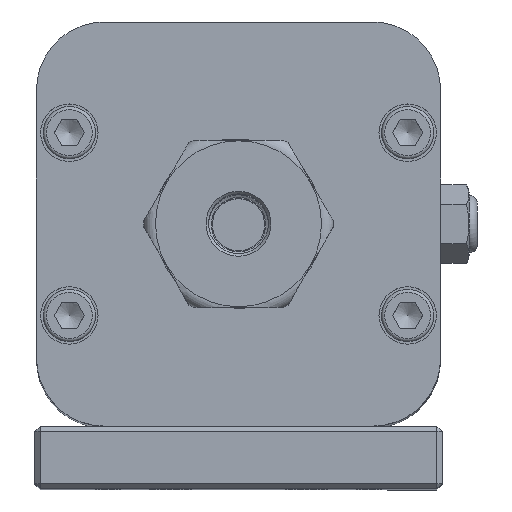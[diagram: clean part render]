
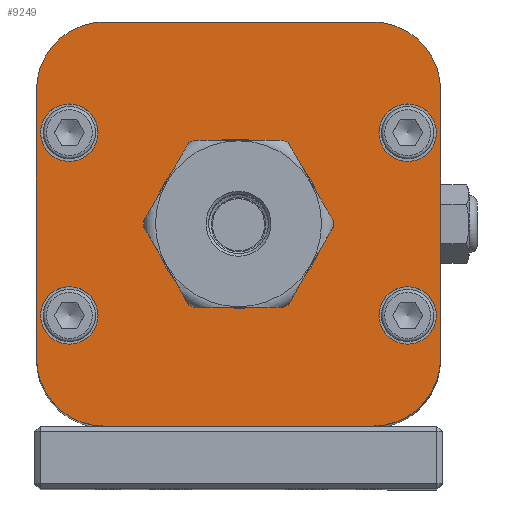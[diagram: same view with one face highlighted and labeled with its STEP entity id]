
A CAD part, top view. The second image highlights one B-rep face of the part: STEP entity #9249.
In plain terms, the highlighted planar face has unit normal (0, 0, 1) as drawn and (0, 0, -1) by its records, which use the part's own axes.
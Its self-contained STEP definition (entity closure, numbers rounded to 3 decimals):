
#646=LINE('',#15520,#1439);
#647=LINE('',#15524,#1440);
#648=LINE('',#15528,#1441);
#649=LINE('',#15532,#1442);
#1439=VECTOR('',#12320,10.);
#1440=VECTOR('',#12323,10.);
#1441=VECTOR('',#12326,10.);
#1442=VECTOR('',#12329,10.);
#2085=FACE_BOUND('',#2988,.T.);
#2086=FACE_BOUND('',#2989,.T.);
#2087=FACE_BOUND('',#2990,.T.);
#2088=FACE_BOUND('',#2991,.T.);
#2089=FACE_BOUND('',#2992,.T.);
#2411=FACE_OUTER_BOUND('',#2987,.T.);
#2987=EDGE_LOOP('',(#7428,#7429,#7430,#7431,#7432,#7433,#7434,#7435));
#2988=EDGE_LOOP('',(#7436));
#2989=EDGE_LOOP('',(#7437));
#2990=EDGE_LOOP('',(#7438));
#2991=EDGE_LOOP('',(#7439));
#2992=EDGE_LOOP('',(#7440));
#3555=CIRCLE('',#10301,15.289);
#3559=CIRCLE('',#10307,13.);
#3560=CIRCLE('',#10308,13.);
#3561=CIRCLE('',#10309,13.);
#3562=CIRCLE('',#10310,13.);
#3563=CIRCLE('',#10311,5.5);
#3564=CIRCLE('',#10312,5.5);
#3565=CIRCLE('',#10313,5.5);
#3566=CIRCLE('',#10314,5.5);
#4266=VERTEX_POINT('',#15506);
#4270=VERTEX_POINT('',#15518);
#4271=VERTEX_POINT('',#15519);
#4272=VERTEX_POINT('',#15521);
#4273=VERTEX_POINT('',#15523);
#4274=VERTEX_POINT('',#15525);
#4275=VERTEX_POINT('',#15527);
#4276=VERTEX_POINT('',#15529);
#4277=VERTEX_POINT('',#15531);
#4278=VERTEX_POINT('',#15534);
#4279=VERTEX_POINT('',#15536);
#4280=VERTEX_POINT('',#15538);
#4281=VERTEX_POINT('',#15540);
#5389=EDGE_CURVE('',#4266,#4266,#3555,.T.);
#5395=EDGE_CURVE('',#4270,#4271,#646,.T.);
#5396=EDGE_CURVE('',#4272,#4270,#3559,.T.);
#5397=EDGE_CURVE('',#4273,#4272,#647,.T.);
#5398=EDGE_CURVE('',#4274,#4273,#3560,.T.);
#5399=EDGE_CURVE('',#4275,#4274,#648,.T.);
#5400=EDGE_CURVE('',#4276,#4275,#3561,.T.);
#5401=EDGE_CURVE('',#4277,#4276,#649,.T.);
#5402=EDGE_CURVE('',#4271,#4277,#3562,.T.);
#5403=EDGE_CURVE('',#4278,#4278,#3563,.T.);
#5404=EDGE_CURVE('',#4279,#4279,#3564,.T.);
#5405=EDGE_CURVE('',#4280,#4280,#3565,.T.);
#5406=EDGE_CURVE('',#4281,#4281,#3566,.T.);
#7428=ORIENTED_EDGE('',*,*,#5395,.F.);
#7429=ORIENTED_EDGE('',*,*,#5396,.F.);
#7430=ORIENTED_EDGE('',*,*,#5397,.F.);
#7431=ORIENTED_EDGE('',*,*,#5398,.F.);
#7432=ORIENTED_EDGE('',*,*,#5399,.F.);
#7433=ORIENTED_EDGE('',*,*,#5400,.F.);
#7434=ORIENTED_EDGE('',*,*,#5401,.F.);
#7435=ORIENTED_EDGE('',*,*,#5402,.F.);
#7436=ORIENTED_EDGE('',*,*,#5403,.T.);
#7437=ORIENTED_EDGE('',*,*,#5404,.T.);
#7438=ORIENTED_EDGE('',*,*,#5405,.T.);
#7439=ORIENTED_EDGE('',*,*,#5406,.T.);
#7440=ORIENTED_EDGE('',*,*,#5389,.F.);
#8857=PLANE('',#10306);
#9249=ADVANCED_FACE('',(#2411,#2085,#2086,#2087,#2088,#2089),#8857,.F.);
#10301=AXIS2_PLACEMENT_3D('',#15507,#12306,#12307);
#10306=AXIS2_PLACEMENT_3D('',#15517,#12318,#12319);
#10307=AXIS2_PLACEMENT_3D('',#15522,#12321,#12322);
#10308=AXIS2_PLACEMENT_3D('',#15526,#12324,#12325);
#10309=AXIS2_PLACEMENT_3D('',#15530,#12327,#12328);
#10310=AXIS2_PLACEMENT_3D('',#15533,#12330,#12331);
#10311=AXIS2_PLACEMENT_3D('',#15535,#12332,#12333);
#10312=AXIS2_PLACEMENT_3D('',#15537,#12334,#12335);
#10313=AXIS2_PLACEMENT_3D('',#15539,#12336,#12337);
#10314=AXIS2_PLACEMENT_3D('',#15541,#12338,#12339);
#12306=DIRECTION('center_axis',(0.,0.,-1.));
#12307=DIRECTION('ref_axis',(0.,-1.,0.));
#12318=DIRECTION('center_axis',(0.,0.,1.));
#12319=DIRECTION('ref_axis',(1.,0.,0.));
#12320=DIRECTION('',(1.,0.,0.));
#12321=DIRECTION('center_axis',(0.,0.,1.));
#12322=DIRECTION('ref_axis',(-1.,0.,0.));
#12323=DIRECTION('',(0.,-1.,0.));
#12324=DIRECTION('center_axis',(0.,0.,1.));
#12325=DIRECTION('ref_axis',(0.,1.,0.));
#12326=DIRECTION('',(-1.,0.,0.));
#12327=DIRECTION('center_axis',(0.,0.,1.));
#12328=DIRECTION('ref_axis',(1.,0.,0.));
#12329=DIRECTION('',(0.,1.,0.));
#12330=DIRECTION('center_axis',(0.,0.,1.));
#12331=DIRECTION('ref_axis',(0.,-1.,0.));
#12332=DIRECTION('center_axis',(0.,0.,1.));
#12333=DIRECTION('ref_axis',(-1.,0.,0.));
#12334=DIRECTION('center_axis',(0.,0.,1.));
#12335=DIRECTION('ref_axis',(-1.,0.,0.));
#12336=DIRECTION('center_axis',(0.,0.,1.));
#12337=DIRECTION('ref_axis',(-1.,0.,0.));
#12338=DIRECTION('center_axis',(0.,0.,1.));
#12339=DIRECTION('ref_axis',(-1.,0.,0.));
#15506=CARTESIAN_POINT('',(0.,15.289,0.));
#15507=CARTESIAN_POINT('Origin',(0.,0.,0.));
#15517=CARTESIAN_POINT('Origin',(0.,0.,
0.));
#15518=CARTESIAN_POINT('',(-25.7,-38.7,0.));
#15519=CARTESIAN_POINT('',(25.7,-38.7,0.));
#15520=CARTESIAN_POINT('',(-25.7,-38.7,0.));
#15521=CARTESIAN_POINT('',(-38.7,-25.7,0.));
#15522=CARTESIAN_POINT('Origin',(-25.7,-25.7,0.));
#15523=CARTESIAN_POINT('',(-38.7,25.7,0.));
#15524=CARTESIAN_POINT('',(-38.7,25.7,0.));
#15525=CARTESIAN_POINT('',(-25.7,38.7,0.));
#15526=CARTESIAN_POINT('Origin',(-25.7,25.7,0.));
#15527=CARTESIAN_POINT('',(25.7,38.7,0.));
#15528=CARTESIAN_POINT('',(25.7,38.7,0.));
#15529=CARTESIAN_POINT('',(38.7,25.7,0.));
#15530=CARTESIAN_POINT('Origin',(25.7,25.7,0.));
#15531=CARTESIAN_POINT('',(38.7,-25.7,0.));
#15532=CARTESIAN_POINT('',(38.7,-25.7,0.));
#15533=CARTESIAN_POINT('Origin',(25.7,-25.7,0.));
#15534=CARTESIAN_POINT('',(-12.,32.4,0.));
#15535=CARTESIAN_POINT('Origin',(-17.5,32.4,0.));
#15536=CARTESIAN_POINT('',(-12.,-32.4,0.));
#15537=CARTESIAN_POINT('Origin',(-17.5,-32.4,0.));
#15538=CARTESIAN_POINT('',(23.,-32.4,0.));
#15539=CARTESIAN_POINT('Origin',(17.5,-32.4,0.));
#15540=CARTESIAN_POINT('',(23.,32.4,0.));
#15541=CARTESIAN_POINT('Origin',(17.5,32.4,0.));
